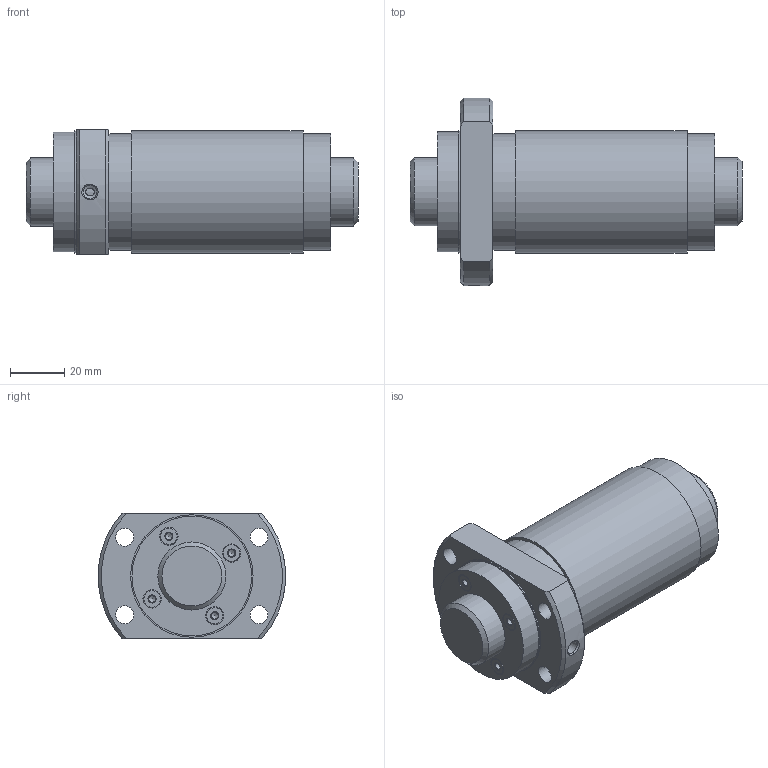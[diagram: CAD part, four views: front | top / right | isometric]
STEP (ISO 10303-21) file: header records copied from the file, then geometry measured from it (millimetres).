
FILE_DESCRIPTION(/* description */ ('STEP AP203'),/* implementation_level */ '2;1');
FILE_NAME(/* name */ 'WGF2550-3G1+122LC3_0_13_0_0',/* time_stamp */ '2025-01-16T06:26:32+01:00',/* author */ ('License CC BY-ND 4.0'),/* organization */ ('CADENAS'),/* preprocessor_version */ 'ST-DEVELOPER v19.3',/* originating_system */ 'PARTsolutions',/* authorisation */ ' ');
FILE_SCHEMA (('CONFIG_CONTROL_DESIGN'));
Length unit declared in the file: millimetre
Products named in the file (3): WGF2550-3G1+122LC3_0_13_0_0; 0130WGF2550-30Shaft; RR0130WGF2550-3Nut
Assembly tree (2 placements, depth 2):
  WGF2550-3G1+122LC3_0_13_0_0
    0130WGF2550-30Shaft
    RR0130WGF2550-3Nut
Bounding box: 122 x 68.89 x 46 mm (x, y, z)
Volume: 182084.8 mm3; surface area: 40608.5 mm2
Topology: 2 solids, 2 shells, 65 faces, 132 edges, 84 vertices
Faces by surface type: cylinder 26, plane 19, cone 16, torus 4
Full cylindrical faces by diameter (mm): 2.5 x4, 4.917 x1, 6.5 x4, 6.6 x4, 6.7 x4, 25 x2, 42.75 x2, 44 x1, 45 x2
Entity records: 1583 total; most frequent: DIRECTION 276, CARTESIAN_POINT 276, ORIENTED_EDGE 168, FACE_BOUND 134, AXIS2_PLACEMENT_3D 134, EDGE_LOOP 130, EDGE_CURVE 84, VERTEX_POINT 80
